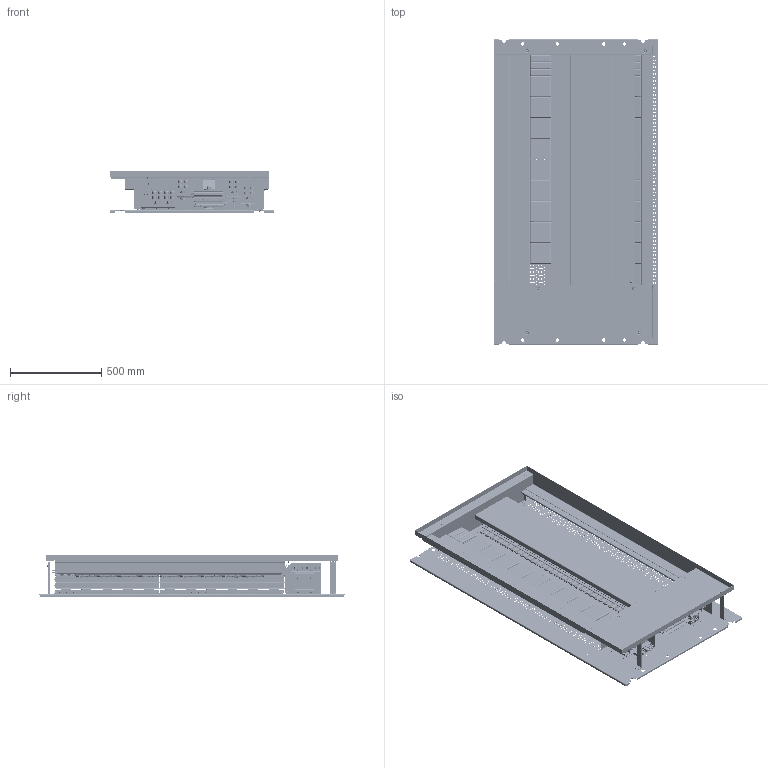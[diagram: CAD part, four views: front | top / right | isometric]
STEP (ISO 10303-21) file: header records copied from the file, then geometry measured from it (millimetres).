
FILE_DESCRIPTION((''),'2;1');
FILE_NAME('HCP50XXXN-01','2018-01-09T',('SESA441333'),('Schneider-Electric'),'PRO/ENGINEER BY PARAMETRIC TECHNOLOGY CORPORATION, 2015440','PRO/ENGINEER BY PARAMETRIC TECHNOLOGY CORPORATION, 2015440','');
FILE_SCHEMA(('CONFIG_CONTROL_DESIGN'));
Products named in the file (1): HCP50XXXN-01
Bounding box: 904.34 x 1677.26 x 225.04 mm (x, y, z)
Surface area: 11872906.7 mm2 (no closed solid volume)
Topology: 0 solids, 1041 shells, 8795 faces, 57932 edges, 49116 vertices
Faces by surface type: plane 5266, cylinder 2392, bspline 378, cone 345, sphere 236, torus 178
Entity records: 611349 total; most frequent: CARTESIAN_POINT 195213, DIRECTION 76284, ORIENTED_EDGE 73534, EDGE_CURVE 57815, VERTEX_POINT 49116, VECTOR 40154, LINE 40154, AXIS2_PLACEMENT_3D 18065
